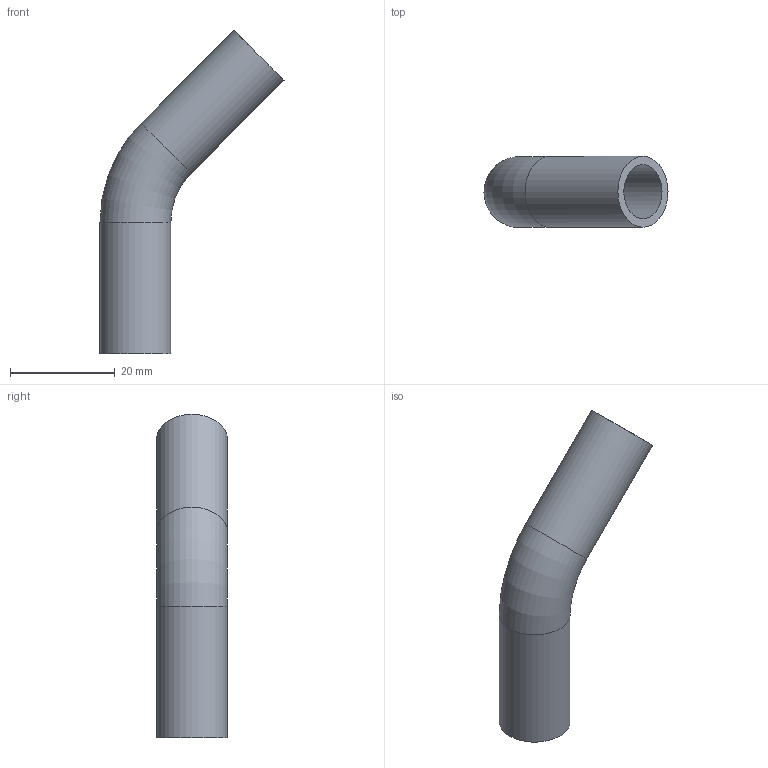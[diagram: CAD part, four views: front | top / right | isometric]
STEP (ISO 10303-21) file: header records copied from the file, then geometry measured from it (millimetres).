
FILE_DESCRIPTION(('Elbow 13,5x1,6_45 deg-Version 00'),'2;1');
FILE_NAME('E045_13,5x1,6_MR20_L33,3_00.stp','2013-09-04T12:24:54',(''),('DOCKWEILER AG'),'Autodesk Inventor 2012','Autodesk Inventor 2012','');
FILE_SCHEMA(('CONFIG_CONTROL_DESIGN'));
Length unit declared in the file: millimetre
Products named in the file (1): N0001_003_001
Bounding box: 35.07 x 13.5 x 61.62 mm (x, y, z)
Volume: 3932.3 mm3; surface area: 5035 mm2
Topology: 1 solids, 1 shells, 8 faces, 14 edges, 8 vertices
Faces by surface type: cylinder 4, torus 2, plane 2
Full cylindrical faces by diameter (mm): 10.3 x2, 13.5 x2
Entity records: 194 total; most frequent: DIRECTION 34, CARTESIAN_POINT 25, AXIS2_PLACEMENT_3D 17, ORIENTED_EDGE 16, EDGE_LOOP 16, VERTEX_POINT 8, CIRCLE 8, EDGE_CURVE 8
